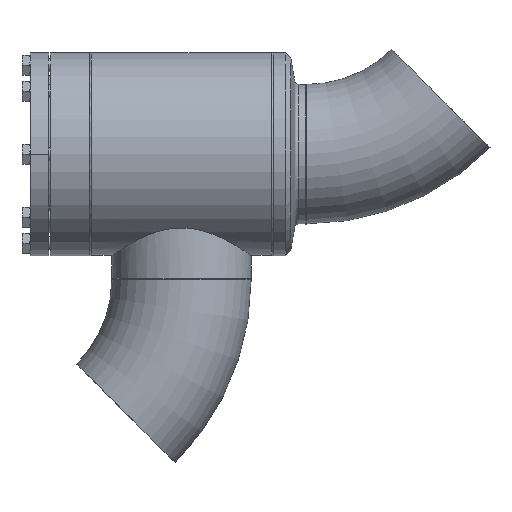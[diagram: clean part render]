
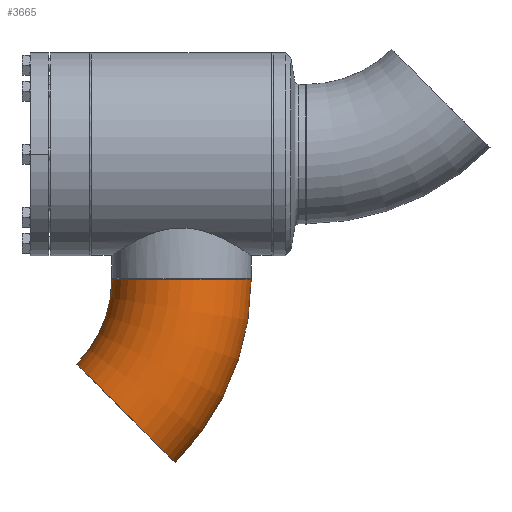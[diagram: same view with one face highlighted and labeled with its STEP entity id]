
A CAD part, left-side view. The second image highlights one B-rep face of the part: STEP entity #3665.
In plain terms, the highlighted toroidal (fillet/blend) face has major radius 229 mm and minor radius 84.15 mm.
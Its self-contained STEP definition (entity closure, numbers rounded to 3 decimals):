
#597 = CARTESIAN_POINT ( 'NONE',  ( 0., 84.15, 0. ) ) ;
#701 = CIRCLE ( 'NONE', #702, 313.15 ) ;
#702 = AXIS2_PLACEMENT_3D ( 'NONE', #703, #704, #705 ) ;
#703 = CARTESIAN_POINT ( 'NONE',  ( 0., -229., 0. ) ) ;
#704 = DIRECTION ( 'NONE',  ( 0., 0., 1. ) ) ;
#705 = DIRECTION ( 'NONE',  ( 1., 0., 0. ) ) ;
#1803 = CARTESIAN_POINT ( 'NONE',  ( 102.424, -126.576, 0. ) ) ;
#1975 = CARTESIAN_POINT ( 'NONE',  ( 221.43, -7.57, 0. ) ) ;
#3490 = VERTEX_POINT ( 'NONE', #597 ) ;
#3497 = EDGE_CURVE ( 'NONE', #3579, #3490, #701, .T. ) ;
#3528 = ORIENTED_EDGE ( 'NONE', *, *, #3497, .T. ) ;
#3561 = VERTEX_POINT ( 'NONE', #1803 ) ;
#3579 = VERTEX_POINT ( 'NONE', #1975 ) ;
#3593 = EDGE_CURVE ( 'NONE', #3579, #3561, #4113, .T. ) ;
#3623 = ORIENTED_EDGE ( 'NONE', *, *, #3593, .F. ) ;
#3665 = ADVANCED_FACE ( 'NONE', ( #5209 ), #5210, .T. ) ;
#3694 = EDGE_LOOP ( 'NONE', ( #3623, #3528, #5957, #4918 ) ) ;
#4113 = CIRCLE ( 'NONE', #4114, 84.15 ) ;
#4114 = AXIS2_PLACEMENT_3D ( 'NONE', #4115, #4116, #4117 ) ;
#4115 = CARTESIAN_POINT ( 'NONE',  ( 161.927, -67.073, 0. ) ) ;
#4116 = DIRECTION ( 'NONE',  ( 0.707, -0.707, 0. ) ) ;
#4117 = DIRECTION ( 'NONE',  ( 0., 0., -1. ) ) ;
#4573 = EDGE_CURVE ( 'NONE', #3561, #5400, #5457, .T. ) ;
#4918 = ORIENTED_EDGE ( 'NONE', *, *, #4573, .F. ) ;
#5209 = FACE_OUTER_BOUND ( 'NONE', #3694, .T. ) ;
#5210 = TOROIDAL_SURFACE ( 'NONE', #5211, 229., 84.15 ) ;
#5211 = AXIS2_PLACEMENT_3D ( 'NONE', #5212, #5213, #5214 ) ;
#5212 = CARTESIAN_POINT ( 'NONE',  ( 0., -229., 0. ) ) ;
#5213 = DIRECTION ( 'NONE',  ( 0., 0., 1. ) ) ;
#5214 = DIRECTION ( 'NONE',  ( 1., 0., 0. ) ) ;
#5400 = VERTEX_POINT ( 'NONE', #6642 ) ;
#5457 = CIRCLE ( 'NONE', #5458, 144.85 ) ;
#5458 = AXIS2_PLACEMENT_3D ( 'NONE', #5459, #5460, #5461 ) ;
#5459 = CARTESIAN_POINT ( 'NONE',  ( 0., -229., 0. ) ) ;
#5460 = DIRECTION ( 'NONE',  ( 0., 0., 1. ) ) ;
#5461 = DIRECTION ( 'NONE',  ( 1., 0., 0. ) ) ;
#5609 = EDGE_CURVE ( 'NONE', #3490, #5400, #6811, .T. ) ;
#5957 = ORIENTED_EDGE ( 'NONE', *, *, #5609, .T. ) ;
#6642 = CARTESIAN_POINT ( 'NONE',  ( 0., -84.15, 0. ) ) ;
#6811 = CIRCLE ( 'NONE', #6812, 84.15 ) ;
#6812 = AXIS2_PLACEMENT_3D ( 'NONE', #6813, #6814, #6815 ) ;
#6813 = CARTESIAN_POINT ( 'NONE',  ( 0., 0., 0. ) ) ;
#6814 = DIRECTION ( 'NONE',  ( 1., 0., 0. ) ) ;
#6815 = DIRECTION ( 'NONE',  ( 0., 0., -1. ) ) ;
